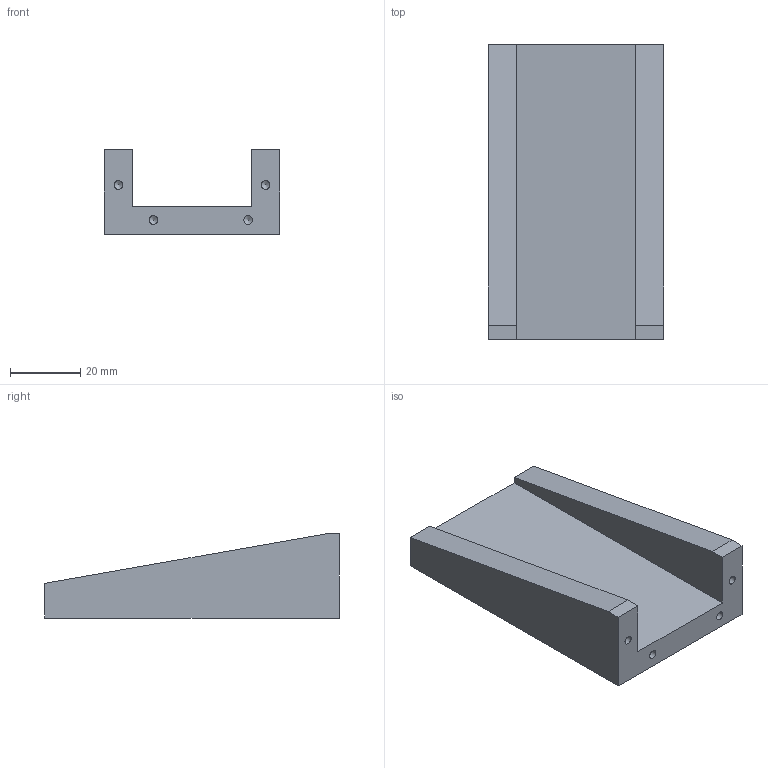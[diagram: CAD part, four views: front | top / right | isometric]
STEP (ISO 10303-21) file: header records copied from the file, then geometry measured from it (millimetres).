
FILE_DESCRIPTION(/* description */ (''),/* implementation_level */ '2;1');
FILE_NAME(/* name */ 'C:\Users\strothej\Documents\ActualDocuments\MicroscopeParts\TwoPhotonSystem\ScanningMechanics\v27\Drawings\Collection_PMT_PreAmp_Mount.stp',/* time_stamp */ '2017-05-24T12:00:36-07:00',/* author */ ('strothej'),/* organization */ (''),/* preprocessor_version */ 'ST-DEVELOPER v16.1',/* originating_system */ 'Autodesk Inventor 2016',/* authorisation */ '');
FILE_SCHEMA (('AUTOMOTIVE_DESIGN { 1 0 10303 214 3 1 1 }'));
Length unit declared in the file: millimetre
Products named in the file (1): Collection_PMT_PreAmp_Mount
Bounding box: 50 x 84 x 24 mm (x, y, z)
Volume: 45772.3 mm3; surface area: 14454.4 mm2
Topology: 1 solids, 1 shells, 28 faces, 70 edges, 44 vertices
Faces by surface type: plane 12, cone 8, cylinder 8
Full cylindrical faces by diameter (mm): 2.459 x8
Entity records: 698 total; most frequent: DIRECTION 120, CARTESIAN_POINT 111, ORIENTED_EDGE 92, EDGE_CURVE 46, AXIS2_PLACEMENT_3D 45, EDGE_LOOP 44, VERTEX_POINT 36, LINE 30
